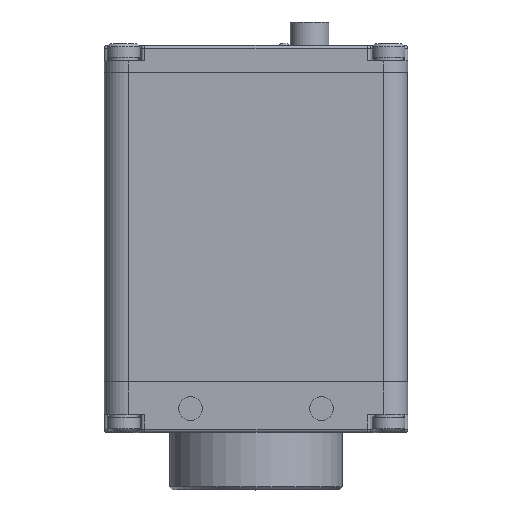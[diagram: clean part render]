
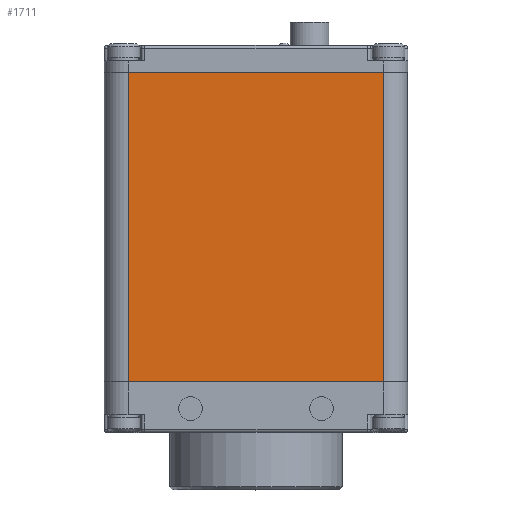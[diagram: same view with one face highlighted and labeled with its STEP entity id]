
A CAD part, top view. The second image highlights one B-rep face of the part: STEP entity #1711.
In plain terms, the highlighted planar face has unit normal (0, 0, 1).
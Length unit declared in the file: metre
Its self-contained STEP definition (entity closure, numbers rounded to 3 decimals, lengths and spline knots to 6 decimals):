
#1711=ADVANCED_FACE('1:23700',(#4535),#4536,.T.);
#2185=EDGE_CURVE('1:26160',#5307,#5304,#5308,.T.);
#3219=EDGE_CURVE('1:26163',#6676,#6657,#6679,.T.);
#3237=EDGE_CURVE('1:25212',#5307,#6676,#6697,.T.);
#3239=EDGE_CURVE('1:25194',#6657,#5304,#6699,.T.);
#4535=FACE_OUTER_BOUND('',#8541,.T.);
#4536=PLANE('',#8542);
#5304=VERTEX_POINT('',#9341);
#5307=VERTEX_POINT('',#9345);
#5308=LINE('',#9346,#9347);
#6657=VERTEX_POINT('',#11525);
#6676=VERTEX_POINT('',#11553);
#6679=LINE('',#11557,#11558);
#6697=LINE('',#11589,#11590);
#6699=LINE('',#11593,#11594);
#8541=EDGE_LOOP('',(#14522,#14523,#14524,#14525));
#8542=AXIS2_PLACEMENT_3D('',#14526,#14527,#14528);
#9341=CARTESIAN_POINT('',(0.021413,-0.021195,0.050888));
#9345=CARTESIAN_POINT('',(-0.021487,-0.021195,0.050888));
#9346=CARTESIAN_POINT('',(0.025413,-0.021195,0.050888));
#9347=VECTOR('',#16386,1.0);
#11525=CARTESIAN_POINT('',(0.021413,0.030805,0.050888));
#11553=CARTESIAN_POINT('',(-0.021487,0.030805,0.050888));
#11557=CARTESIAN_POINT('',(-0.000018,0.030805,0.050888));
#11558=VECTOR('',#17291,1.0);
#11589=CARTESIAN_POINT('',(-0.021487,0.030805,0.050888));
#11590=VECTOR('',#17308,1.0);
#11593=CARTESIAN_POINT('',(0.021413,0.030805,0.050888));
#11594=VECTOR('',#17309,1.0);
#14522=ORIENTED_EDGE('',*,*,#3237,.F.);
#14523=ORIENTED_EDGE('',*,*,#2185,.T.);
#14524=ORIENTED_EDGE('',*,*,#3239,.F.);
#14525=ORIENTED_EDGE('',*,*,#3219,.F.);
#14526=CARTESIAN_POINT('',(-0.000037,0.030805,0.050888));
#14527=DIRECTION('',(0.0,0.,1.0));
#14528=DIRECTION('',(0.0,-1.0,0.));
#16386=DIRECTION('',(1.0,0.0,0.0));
#17291=DIRECTION('',(1.0,0.0,0.0));
#17308=DIRECTION('',(0.0,1.0,0.));
#17309=DIRECTION('',(0.0,-1.0,0.));
